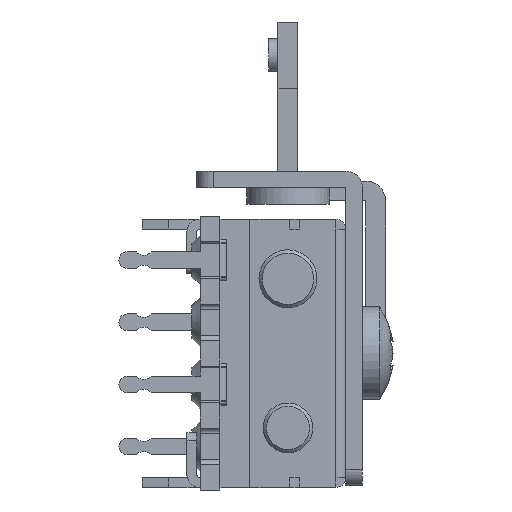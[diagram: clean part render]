
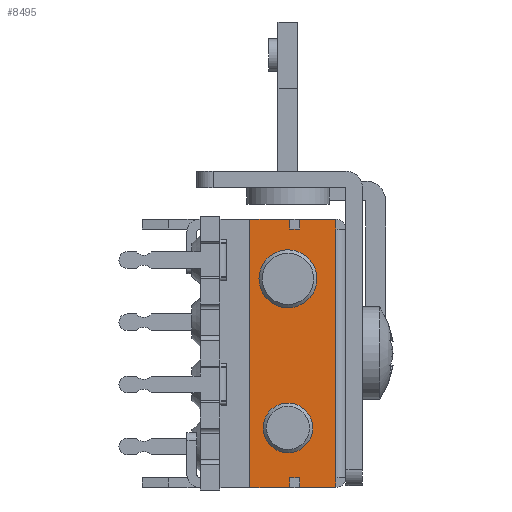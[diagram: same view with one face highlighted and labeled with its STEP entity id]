
A CAD part, left-side view. The second image highlights one B-rep face of the part: STEP entity #8495.
In plain terms, the highlighted planar face has unit normal (-1, 0, 0).
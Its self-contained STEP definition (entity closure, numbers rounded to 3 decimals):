
#1983 = VERTEX_POINT('',#1984);
#1984 = CARTESIAN_POINT('',(-63.6,-2.9,-2.9));
#1990 = EDGE_CURVE('',#1991,#1983,#1993,.T.);
#1991 = VERTEX_POINT('',#1992);
#1992 = CARTESIAN_POINT('',(-63.6,-0.7,-2.9));
#1993 = LINE('',#1994,#1995);
#1994 = CARTESIAN_POINT('',(-63.6,2.3,-2.9));
#1995 = VECTOR('',#1996,1.);
#1996 = DIRECTION('',(0.,-1.,0.));
#2015 = VERTEX_POINT('',#2016);
#2016 = CARTESIAN_POINT('',(-63.6,-0.1,-2.9));
#2022 = EDGE_CURVE('',#2023,#2015,#2025,.T.);
#2023 = VERTEX_POINT('',#2024);
#2024 = CARTESIAN_POINT('',(-63.6,2.3,-2.9));
#2025 = LINE('',#2026,#2027);
#2026 = CARTESIAN_POINT('',(-63.6,2.3,-2.9));
#2027 = VECTOR('',#2028,1.);
#2028 = DIRECTION('',(0.,-1.,0.));
#2622 = VERTEX_POINT('',#2623);
#2623 = CARTESIAN_POINT('',(-63.6,-2.9,-19.1));
#2629 = EDGE_CURVE('',#2630,#2622,#2632,.T.);
#2630 = VERTEX_POINT('',#2631);
#2631 = CARTESIAN_POINT('',(-63.6,-0.7,-19.1));
#2632 = LINE('',#2633,#2634);
#2633 = CARTESIAN_POINT('',(-63.6,2.3,-19.1));
#2634 = VECTOR('',#2635,1.);
#2635 = DIRECTION('',(0.,-1.,0.));
#2654 = VERTEX_POINT('',#2655);
#2655 = CARTESIAN_POINT('',(-63.6,-0.1,-19.1));
#2661 = EDGE_CURVE('',#2662,#2654,#2664,.T.);
#2662 = VERTEX_POINT('',#2663);
#2663 = CARTESIAN_POINT('',(-63.6,2.3,-19.1));
#2664 = LINE('',#2665,#2666);
#2665 = CARTESIAN_POINT('',(-63.6,2.3,-19.1));
#2666 = VECTOR('',#2667,1.);
#2667 = DIRECTION('',(0.,-1.,0.));
#8446 = EDGE_CURVE('',#8447,#1983,#8449,.T.);
#8447 = VERTEX_POINT('',#8448);
#8448 = CARTESIAN_POINT('',(-63.6,-2.9,-3.5));
#8449 = LINE('',#8450,#8451);
#8450 = CARTESIAN_POINT('',(-63.6,-2.9,-2.2));
#8451 = VECTOR('',#8452,1.);
#8452 = DIRECTION('',(0.,0.,1.));
#8495 = ADVANCED_FACE('',(#8496,#8567,#8578),#8589,.T.);
#8496 = FACE_BOUND('',#8497,.T.);
#8497 = EDGE_LOOP('',(#8498,#8506,#8507,#8508,#8516,#8524,#8530,#8531,
    #8537,#8538,#8546,#8554,#8560,#8561));
#8498 = ORIENTED_EDGE('',*,*,#8499,.F.);
#8499 = EDGE_CURVE('',#8447,#8500,#8502,.T.);
#8500 = VERTEX_POINT('',#8501);
#8501 = CARTESIAN_POINT('',(-63.6,-2.9,-18.5));
#8502 = LINE('',#8503,#8504);
#8503 = CARTESIAN_POINT('',(-63.6,-2.9,-3.5));
#8504 = VECTOR('',#8505,1.);
#8505 = DIRECTION('',(0.,0.,-1.));
#8506 = ORIENTED_EDGE('',*,*,#8446,.T.);
#8507 = ORIENTED_EDGE('',*,*,#1990,.F.);
#8508 = ORIENTED_EDGE('',*,*,#8509,.F.);
#8509 = EDGE_CURVE('',#8510,#1991,#8512,.T.);
#8510 = VERTEX_POINT('',#8511);
#8511 = CARTESIAN_POINT('',(-63.6,-0.7,-3.5));
#8512 = LINE('',#8513,#8514);
#8513 = CARTESIAN_POINT('',(-63.6,-0.7,-2.2));
#8514 = VECTOR('',#8515,1.);
#8515 = DIRECTION('',(0.,0.,1.));
#8516 = ORIENTED_EDGE('',*,*,#8517,.F.);
#8517 = EDGE_CURVE('',#8518,#8510,#8520,.T.);
#8518 = VERTEX_POINT('',#8519);
#8519 = CARTESIAN_POINT('',(-63.6,-0.1,-3.5));
#8520 = LINE('',#8521,#8522);
#8521 = CARTESIAN_POINT('',(-63.6,1.1,-3.5));
#8522 = VECTOR('',#8523,1.);
#8523 = DIRECTION('',(0.,-1.,0.));
#8524 = ORIENTED_EDGE('',*,*,#8525,.T.);
#8525 = EDGE_CURVE('',#8518,#2015,#8526,.T.);
#8526 = LINE('',#8527,#8528);
#8527 = CARTESIAN_POINT('',(-63.6,-0.1,-2.2));
#8528 = VECTOR('',#8529,1.);
#8529 = DIRECTION('',(0.,0.,1.));
#8530 = ORIENTED_EDGE('',*,*,#2022,.F.);
#8531 = ORIENTED_EDGE('',*,*,#8532,.T.);
#8532 = EDGE_CURVE('',#2023,#2662,#8533,.T.);
#8533 = LINE('',#8534,#8535);
#8534 = CARTESIAN_POINT('',(-63.6,2.3,-2.9));
#8535 = VECTOR('',#8536,1.);
#8536 = DIRECTION('',(0.,0.,-1.));
#8537 = ORIENTED_EDGE('',*,*,#2661,.T.);
#8538 = ORIENTED_EDGE('',*,*,#8539,.T.);
#8539 = EDGE_CURVE('',#2654,#8540,#8542,.T.);
#8540 = VERTEX_POINT('',#8541);
#8541 = CARTESIAN_POINT('',(-63.6,-0.1,-18.5));
#8542 = LINE('',#8543,#8544);
#8543 = CARTESIAN_POINT('',(-63.6,-0.1,-10.7));
#8544 = VECTOR('',#8545,1.);
#8545 = DIRECTION('',(0.,0.,1.));
#8546 = ORIENTED_EDGE('',*,*,#8547,.T.);
#8547 = EDGE_CURVE('',#8540,#8548,#8550,.T.);
#8548 = VERTEX_POINT('',#8549);
#8549 = CARTESIAN_POINT('',(-63.6,-0.7,-18.5));
#8550 = LINE('',#8551,#8552);
#8551 = CARTESIAN_POINT('',(-63.6,1.1,-18.5));
#8552 = VECTOR('',#8553,1.);
#8553 = DIRECTION('',(0.,-1.,0.));
#8554 = ORIENTED_EDGE('',*,*,#8555,.F.);
#8555 = EDGE_CURVE('',#2630,#8548,#8556,.T.);
#8556 = LINE('',#8557,#8558);
#8557 = CARTESIAN_POINT('',(-63.6,-0.7,-10.7));
#8558 = VECTOR('',#8559,1.);
#8559 = DIRECTION('',(0.,0.,1.));
#8560 = ORIENTED_EDGE('',*,*,#2629,.T.);
#8561 = ORIENTED_EDGE('',*,*,#8562,.T.);
#8562 = EDGE_CURVE('',#2622,#8500,#8563,.T.);
#8563 = LINE('',#8564,#8565);
#8564 = CARTESIAN_POINT('',(-63.6,-2.9,-10.7));
#8565 = VECTOR('',#8566,1.);
#8566 = DIRECTION('',(0.,0.,1.));
#8567 = FACE_BOUND('',#8568,.T.);
#8568 = EDGE_LOOP('',(#8569));
#8569 = ORIENTED_EDGE('',*,*,#8570,.T.);
#8570 = EDGE_CURVE('',#8571,#8571,#8573,.T.);
#8571 = VERTEX_POINT('',#8572);
#8572 = CARTESIAN_POINT('',(-63.6,1.5,-15.5));
#8573 = CIRCLE('',#8574,1.5);
#8574 = AXIS2_PLACEMENT_3D('',#8575,#8576,#8577);
#8575 = CARTESIAN_POINT('',(-63.6,0.,-15.5));
#8576 = DIRECTION('',(1.,0.,0.));
#8577 = DIRECTION('',(0.,1.,0.));
#8578 = FACE_BOUND('',#8579,.T.);
#8579 = EDGE_LOOP('',(#8580));
#8580 = ORIENTED_EDGE('',*,*,#8581,.T.);
#8581 = EDGE_CURVE('',#8582,#8582,#8584,.T.);
#8582 = VERTEX_POINT('',#8583);
#8583 = CARTESIAN_POINT('',(-63.6,1.75,-6.5));
#8584 = CIRCLE('',#8585,1.75);
#8585 = AXIS2_PLACEMENT_3D('',#8586,#8587,#8588);
#8586 = CARTESIAN_POINT('',(-63.6,0.,-6.5));
#8587 = DIRECTION('',(1.,0.,0.));
#8588 = DIRECTION('',(0.,1.,0.));
#8589 = PLANE('',#8590);
#8590 = AXIS2_PLACEMENT_3D('',#8591,#8592,#8593);
#8591 = CARTESIAN_POINT('',(-63.6,2.3,-2.9));
#8592 = DIRECTION('',(-1.,0.,-0.));
#8593 = DIRECTION('',(0.,-1.,0.));
